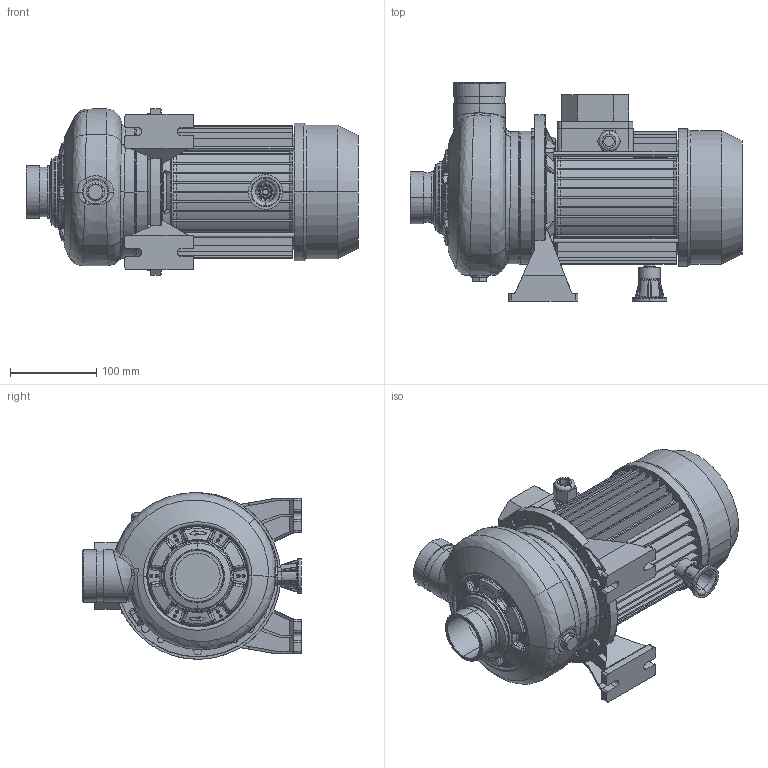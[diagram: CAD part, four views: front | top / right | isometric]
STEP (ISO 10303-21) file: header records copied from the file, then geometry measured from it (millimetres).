
FILE_DESCRIPTION((''),'2;1');
FILE_NAME('DWC_V_300_1_5_IE2_ASM','2011-06-27T',('Utente'),('"Ebara Pumps Europe +39.444.706811"'),'PRO/ENGINEER BY PARAMETRIC TECHNOLOGY CORPORATION, 2009360','PRO/ENGINEER BY PARAMETRIC TECHNOLOGY CORPORATION, 2009360','');
FILE_SCHEMA(('AUTOMOTIVE_DESIGN { 1 0 10303 214 1 1 1 1 }'));
Length unit declared in the file: millimetre
Products named in the file (12): MEC_80X120_IE2; 80596; 251420991; 10054; 76006; 40032; 62074; 10188; 20104_ASM; 72011; 72028; DWC_V_300_1_5_IE2_ASM
Assembly tree (13 placements, depth 3):
  DWC_V_300_1_5_IE2_ASM
    MEC_80X120_IE2
    80596
    20104_ASM
      251420991
      10054
      76006  x2
      40032  x2
      62074
      10188
    72011
    72028
Bounding box: 384.5 x 253 x 192.9 mm (x, y, z)
Volume: 2803208.7 mm3; surface area: 675365.8 mm2
Topology: 12 solids, 12 shells, 1646 faces, 3964 edges, 2396 vertices
Faces by surface type: plane 509, bspline 434, cylinder 282, torus 210, cone 165, sphere 42, extrusion 4
Entity records: 89702 total; most frequent: CARTESIAN_POINT 39576, ORIENTED_EDGE 7746, DIRECTION 6683, EDGE_CURVE 3873, PRESENTATION_STYLE_ASSIGNMENT 3826, STYLED_ITEM 3826, CURVE_STYLE 3817, AXIS2_PLACEMENT_3D 2773
